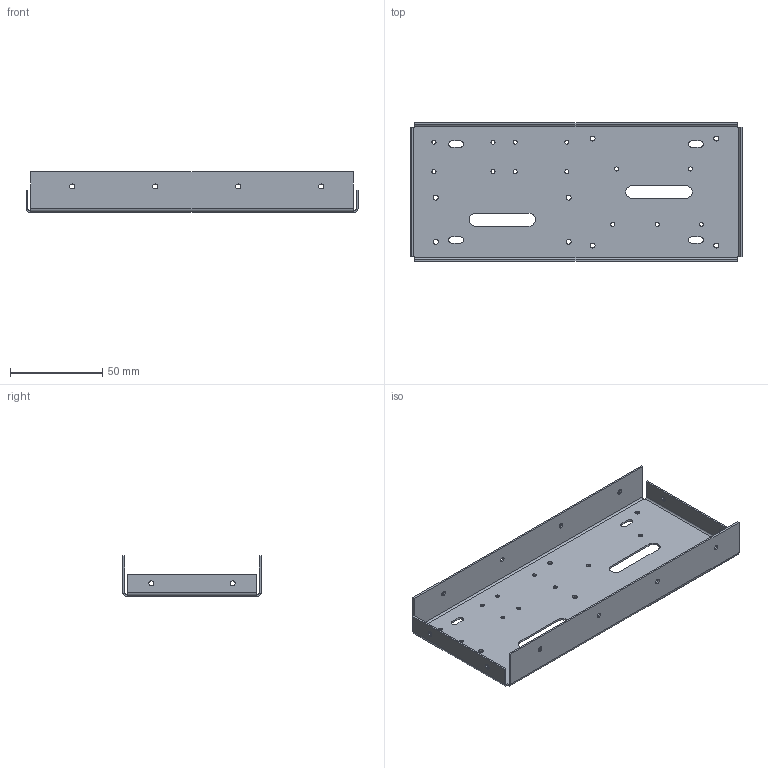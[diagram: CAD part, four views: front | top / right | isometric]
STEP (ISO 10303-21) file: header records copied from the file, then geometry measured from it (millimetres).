
FILE_DESCRIPTION(/* description */ (''),/* implementation_level */ '2;1');
FILE_NAME(/* name */ 'PDB-01-101_Base_Tray_R01.step',/* time_stamp */ '2026-11-24T01:50:36+05:00',/* author */ (''),/* organization */ (''),/* preprocessor_version */ 'ST-DEVELOPER v20.2',/* originating_system */ 'Autodesk Translation Framework v15.17.0.0',/* authorisation */ '');
FILE_SCHEMA (('AUTOMOTIVE_DESIGN { 1 0 10303 214 3 1 1 }'));
Length unit declared in the file: centimetre
Products named in the file (1): 2026-11-24-01-50-36-120
Bounding box: 180 x 75 x 22 mm (x, y, z)
Volume: 21303.8 mm3; surface area: 43739.4 mm2
Topology: 1 solids, 1 shells, 103 faces, 271 edges, 170 vertices
Faces by surface type: cylinder 53, plane 50
Full cylindrical faces by diameter (mm): 2.2 x13, 2.7 x20
Entity records: 3364 total; most frequent: DIRECTION 585, CARTESIAN_POINT 545, ORIENTED_EDGE 542, EDGE_CURVE 271, AXIS2_PLACEMENT_3D 210, EDGE_LOOP 181, VERTEX_POINT 170, LINE 165
